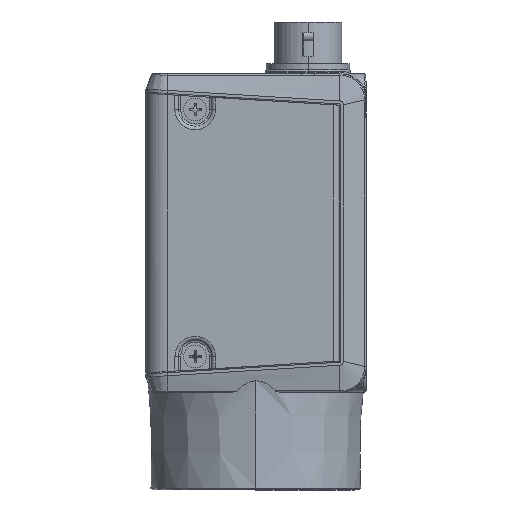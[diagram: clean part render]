
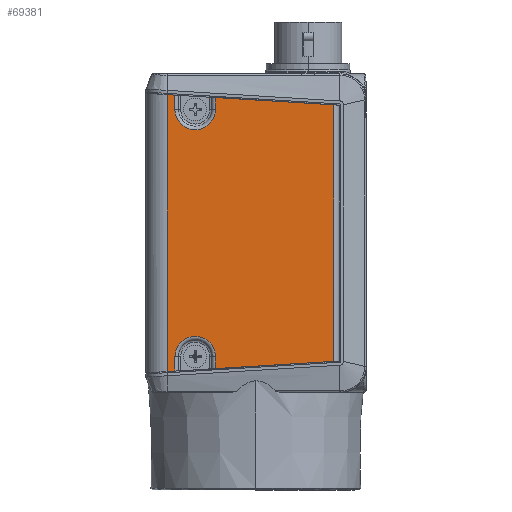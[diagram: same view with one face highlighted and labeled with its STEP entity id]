
A CAD part, left-side view. The second image highlights one B-rep face of the part: STEP entity #69381.
In plain terms, the highlighted planar face has unit normal (-1, 0, 0).
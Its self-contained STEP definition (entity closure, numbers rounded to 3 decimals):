
#13201=CARTESIAN_POINT('',(-14.5,-10.263,
13.575));
#13206=DIRECTION('',(0.,0.,1.));
#13207=VECTOR('',#13206,33.851);
#13208=CARTESIAN_POINT('',(-14.5,-10.263,
13.575));
#13209=LINE('',#13208,#13207);
#13237=CARTESIAN_POINT('',(-14.5,5.33,48.379));
#13348=DIRECTION('',(0.,0.,-1.));
#13349=VECTOR('',#13348,1.579);
#13350=CARTESIAN_POINT('',(-14.5,5.33,48.379));
#13351=LINE('',#13350,#13349);
#13355=CARTESIAN_POINT('',(-14.5,8.,14.2));
#13356=DIRECTION('',(-1.,0.,0.));
#13357=DIRECTION('',(0.,-1.,0.));
#13358=AXIS2_PLACEMENT_3D('',#13355,#13356,#13357);
#13363=CARTESIAN_POINT('',(-14.5,8.,14.2));
#13364=DIRECTION('',(-1.,0.,0.));
#13365=DIRECTION('',(0.,-0.999,0.054));
#13366=AXIS2_PLACEMENT_3D('',#13363,#13364,#13365);
#13371=DIRECTION('',(0.,0.998,-0.061));
#13372=VECTOR('',#13371,1.032);
#13373=CARTESIAN_POINT('',(-14.5,10.67,12.294));
#13374=LINE('',#13373,#13372);
#13378=DIRECTION('',(0.,-0.998,-0.061));
#13379=VECTOR('',#13378,1.032);
#13380=CARTESIAN_POINT('',(-14.5,11.7,
48.769));
#13381=LINE('',#13380,#13379);
#13385=CARTESIAN_POINT('',(-14.5,8.,46.8));
#13386=DIRECTION('',(-1.,0.,0.));
#13387=DIRECTION('',(0.,1.,0.));
#13388=AXIS2_PLACEMENT_3D('',#13385,#13386,#13387);
#13393=CARTESIAN_POINT('',(-14.5,8.,46.8));
#13394=DIRECTION('',(-1.,0.,0.));
#13395=DIRECTION('',(0.,0.999,-0.054));
#13396=AXIS2_PLACEMENT_3D('',#13393,#13394,#13395);
#13401=DIRECTION('',(0.,-0.998,-0.061));
#13402=VECTOR('',#13401,15.622);
#13403=CARTESIAN_POINT('',(-14.5,5.33,48.379));
#13404=LINE('',#13403,#13402);
#13408=DIRECTION('',(0.,0.998,-0.061));
#13409=VECTOR('',#13408,15.622);
#13410=CARTESIAN_POINT('',(-14.5,-10.263,
13.575));
#13411=LINE('',#13410,#13409);
#13415=DIRECTION('',(0.,0.,-1.));
#13416=VECTOR('',#13415,1.579);
#13417=CARTESIAN_POINT('',(-14.5,5.33,14.2));
#13418=LINE('',#13417,#13416);
#13497=CARTESIAN_POINT('',(-14.5,5.33,
12.621));
#13577=CARTESIAN_POINT('',(-14.5,10.67,48.706));
#33427=CARTESIAN_POINT('',(-14.5,10.67,12.294));
#33455=CARTESIAN_POINT('',(-14.5,11.7,
48.769));
#33460=DIRECTION('',(0.,0.,-1.));
#33461=VECTOR('',#33460,36.537);
#33462=CARTESIAN_POINT('',(-14.5,11.7,
48.769));
#33463=LINE('',#33462,#33461);
#33467=CARTESIAN_POINT('',(-14.5,11.7,
12.231));
#33683=DIRECTION('',(0.,0.,1.));
#33684=VECTOR('',#33683,1.906);
#33685=CARTESIAN_POINT('',(-14.5,10.67,12.294));
#33686=LINE('',#33685,#33684);
#38173=DIRECTION('',(0.,0.,1.));
#38174=VECTOR('',#38173,1.906);
#38175=CARTESIAN_POINT('',(-14.5,10.67,46.8));
#38176=LINE('',#38175,#38174);
#51166=VERTEX_POINT('',#33467);
#51169=VERTEX_POINT('',#33455);
#51356=VERTEX_POINT('',#13577);
#51377=VERTEX_POINT('',#13237);
#51378=CARTESIAN_POINT('',(-14.5,5.33,46.8));
#51379=VERTEX_POINT('',#51378);
#51380=CARTESIAN_POINT('',(-14.5,-10.263,
47.425));
#51381=VERTEX_POINT('',#51380);
#51388=VERTEX_POINT('',#13201);
#51407=VERTEX_POINT('',#13497);
#51444=VERTEX_POINT('',#33427);
#51445=CARTESIAN_POINT('',(-14.5,10.67,14.2));
#51446=VERTEX_POINT('',#51445);
#51447=CARTESIAN_POINT('',(-14.5,5.33,14.2));
#51448=VERTEX_POINT('',#51447);
#51449=CARTESIAN_POINT('',(-14.5,5.334,14.345));
#51450=VERTEX_POINT('',#51449);
#51451=CARTESIAN_POINT('',(-14.5,10.67,46.8));
#51452=VERTEX_POINT('',#51451);
#51453=CARTESIAN_POINT('',(-14.5,10.666,46.655));
#51454=VERTEX_POINT('',#51453);
#69349=CARTESIAN_POINT('',(-14.5,14.5,11.7));
#69350=DIRECTION('',(-1.,0.,0.));
#69351=DIRECTION('',(0.,0.,-1.));
#69352=AXIS2_PLACEMENT_3D('',#69349,#69350,#69351);
#69353=PLANE('',#69352);
#69355=ORIENTED_EDGE('',*,*,#69354,.F.);
#69357=ORIENTED_EDGE('',*,*,#69356,.T.);
#69359=ORIENTED_EDGE('',*,*,#69358,.T.);
#69361=ORIENTED_EDGE('',*,*,#69360,.F.);
#69363=ORIENTED_EDGE('',*,*,#69362,.T.);
#69365=ORIENTED_EDGE('',*,*,#69364,.F.);
#69367=ORIENTED_EDGE('',*,*,#69366,.T.);
#69369=ORIENTED_EDGE('',*,*,#69368,.F.);
#69371=ORIENTED_EDGE('',*,*,#69370,.T.);
#69373=ORIENTED_EDGE('',*,*,#69372,.T.);
#69374=ORIENTED_EDGE('',*,*,#69342,.F.);
#69375=ORIENTED_EDGE('',*,*,#69182,.T.);
#69376=ORIENTED_EDGE('',*,*,#69094,.F.);
#69378=ORIENTED_EDGE('',*,*,#69377,.T.);
#69379=EDGE_LOOP('',(#69355,#69357,#69359,#69361,#69363,#69365,#69367,#69369,
#69371,#69373,#69374,#69375,#69376,#69378));
#69380=FACE_OUTER_BOUND('',#69379,.F.);
#69381=ADVANCED_FACE('',(#69380),#69353,.T.);
#13359=CIRCLE('',#13358,2.67);
#13367=CIRCLE('',#13366,2.67);
#13389=CIRCLE('',#13388,2.67);
#13397=CIRCLE('',#13396,2.67);
#69094=EDGE_CURVE('',#51388,#51381,#13209,.T.);
#69182=EDGE_CURVE('',#51377,#51381,#13404,.T.);
#69342=EDGE_CURVE('',#51377,#51379,#13351,.T.);
#69354=EDGE_CURVE('',#51448,#51407,#13418,.T.);
#69356=EDGE_CURVE('',#51448,#51450,#13359,.T.);
#69358=EDGE_CURVE('',#51450,#51446,#13367,.T.);
#69360=EDGE_CURVE('',#51444,#51446,#33686,.T.);
#69362=EDGE_CURVE('',#51444,#51166,#13374,.T.);
#69364=EDGE_CURVE('',#51169,#51166,#33463,.T.);
#69366=EDGE_CURVE('',#51169,#51356,#13381,.T.);
#69368=EDGE_CURVE('',#51452,#51356,#38176,.T.);
#69370=EDGE_CURVE('',#51452,#51454,#13389,.T.);
#69372=EDGE_CURVE('',#51454,#51379,#13397,.T.);
#69377=EDGE_CURVE('',#51388,#51407,#13411,.T.);
